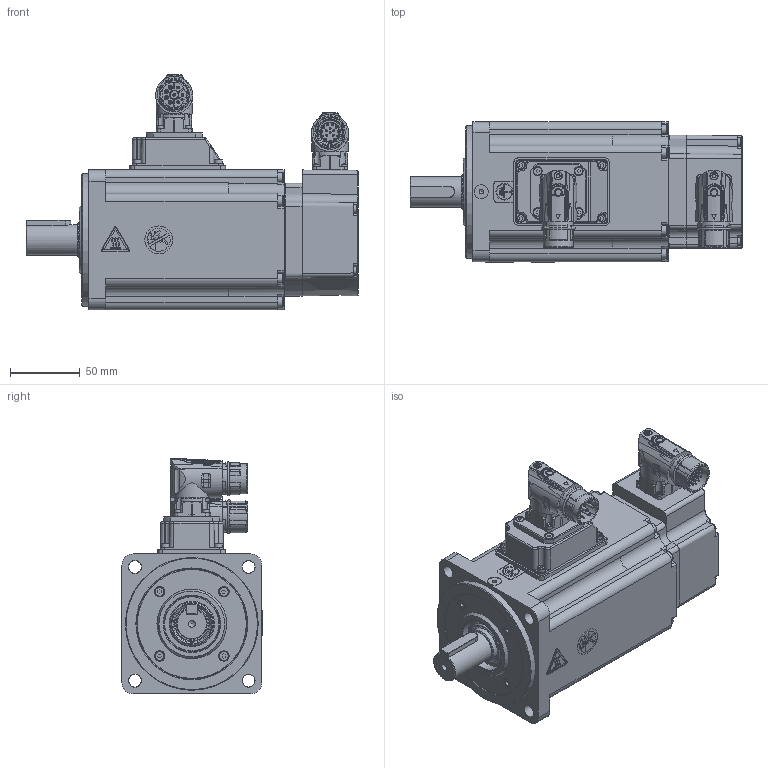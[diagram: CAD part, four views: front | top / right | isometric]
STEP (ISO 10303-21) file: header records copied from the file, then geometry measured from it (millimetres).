
FILE_DESCRIPTION( ( 'Unknown' ), '1' );
FILE_NAME( 'U:/05_Progetto TCE/010-TCE motor drawings/TCE100/vuoti/TCE100 4A XX 3 A1 1 C2.stp', 'Unknown', ( 'Unknown' ), ( 'Unknown' ), 'PSStep 17.0.49', 'Unknown', ' ' );
FILE_SCHEMA( ( 'AUTOMOTIVE_DESIGN { 1 0 10303 214 1 1 1 1 }' ) );
Length unit declared in the file: millimetre
Products named in the file (16): 005911000430
Bounding box: 237.5 x 100.3 x 168.5 mm (x, y, z)
Volume: 756669.8 mm3; surface area: 272153.8 mm2
Topology: 16 solids, 89 shells, 3023 faces, 7564 edges, 4884 vertices
Faces by surface type: plane 1477, cylinder 754, cone 288, bspline 194, torus 161, sphere 111, extrusion 38
Full cylindrical faces by diameter (mm): 0.5 x1, 1 x21, 1.2 x17, 1.4 x4, 1.7 x2, 2 x4, 2.013 x4, 2.2 x2, 2.459 x23, 2.5 x8, 2.6 x4, 2.8 x4, 3 x29, 3.2 x1, 3.242 x42, 3.5 x8, 4 x21, 4.4 x4, 4.5 x18, 4.7 x4, 4.917 x1, 5.5 x12, 5.8 x1, 5.9 x2, 6.8 x1, 7 x16, 7.5 x4, 8 x5, 10 x1, 11 x1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
Entity records: 119637 total; most frequent: CARTESIAN_POINT 30462, DIRECTION 13570, ORIENTED_EDGE 13060, EDGE_CURVE 6530, AXIS2_PLACEMENT_3D 5089, VERTEX_POINT 4618, EDGE_LOOP 3991, FACE_OUTER_BOUND 3479
